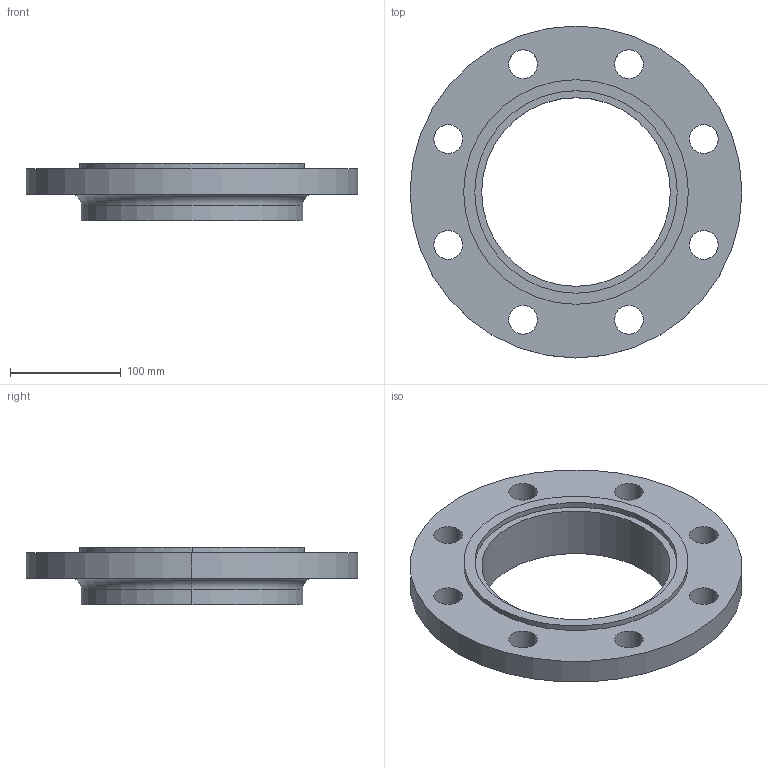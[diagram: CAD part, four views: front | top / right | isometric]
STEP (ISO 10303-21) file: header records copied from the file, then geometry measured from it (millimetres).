
FILE_DESCRIPTION (( 'STEP AP214' ), '1' );
FILE_NAME ('PN40 DN150 Type 12 - Type C Face.STEP', '2019-01-04T22:00:30', ( '' ), ( '' ), 'SwSTEP 2.0', 'SolidWorks 2019', '' );
FILE_SCHEMA (( 'AUTOMOTIVE_DESIGN' ));
Length unit declared in the file: millimetre
Products named in the file (1): PN40 DN150 Type 12 - Type C Face
Bounding box: 300 x 300 x 52 mm (x, y, z)
Volume: 1253076 mm3; surface area: 167585.5 mm2
Topology: 1 solids, 1 shells, 33 faces, 82 edges, 54 vertices
Faces by surface type: cylinder 26, plane 5, torus 2
Entity records: 1086 total; most frequent: DIRECTION 206, CARTESIAN_POINT 170, ORIENTED_EDGE 164, AXIS2_PLACEMENT_3D 90, EDGE_CURVE 82, CIRCLE 56, EDGE_LOOP 54, VERTEX_POINT 54
